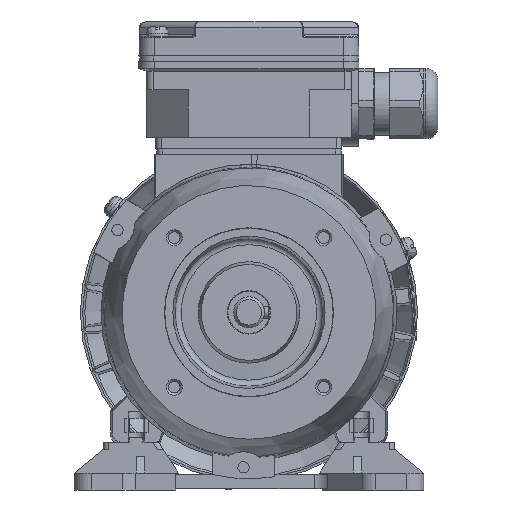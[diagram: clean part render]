
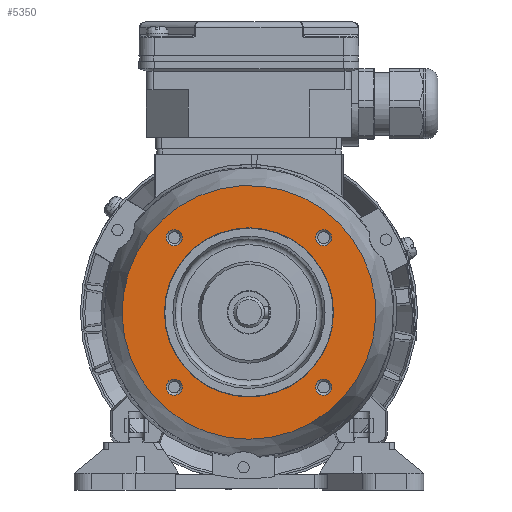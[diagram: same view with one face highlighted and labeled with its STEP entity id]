
A CAD part, left-side view. The second image highlights one B-rep face of the part: STEP entity #5350.
In plain terms, the highlighted planar face has unit normal (-1, 0, 0) as drawn and (0, -1, 0) by its records, which use the part's own axes.
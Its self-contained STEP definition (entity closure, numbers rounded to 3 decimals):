
#5350 = ADVANCED_FACE( '', ( #10820, #10821, #10822, #10823, #10824, #10825 ), #10826, .T. );
#10820 = FACE_BOUND( '', #23116, .T. );
#10821 = FACE_BOUND( '', #23117, .T. );
#10822 = FACE_BOUND( '', #23118, .T. );
#10823 = FACE_BOUND( '', #23119, .T. );
#10824 = FACE_OUTER_BOUND( '', #23120, .T. );
#10825 = FACE_BOUND( '', #23121, .T. );
#10826 = PLANE( '', #23122 );
#23116 = EDGE_LOOP( '', ( #38855 ) );
#23117 = EDGE_LOOP( '', ( #38856 ) );
#23118 = EDGE_LOOP( '', ( #38857 ) );
#23119 = EDGE_LOOP( '', ( #38858 ) );
#23120 = EDGE_LOOP( '', ( #38859 ) );
#23121 = EDGE_LOOP( '', ( #38860 ) );
#23122 = AXIS2_PLACEMENT_3D( '', #38861, #38862, #38863 );
#38855 = ORIENTED_EDGE( '', *, *, #48733, .T. );
#38856 = ORIENTED_EDGE( '', *, *, #45369, .T. );
#38857 = ORIENTED_EDGE( '', *, *, #48648, .T. );
#38858 = ORIENTED_EDGE( '', *, *, #44516, .T. );
#38859 = ORIENTED_EDGE( '', *, *, #48706, .T. );
#38860 = ORIENTED_EDGE( '', *, *, #43564, .F. );
#38861 = CARTESIAN_POINT( '', ( 0., 2.5, 30. ) );
#38862 = DIRECTION( '', ( 0., -1., 0. ) );
#38863 = DIRECTION( '', ( 0., 0., -1. ) );
#43564 = EDGE_CURVE( '', #50721, #50721, #50722, .T. );
#44516 = EDGE_CURVE( '', #52371, #52371, #52372, .F. );
#45369 = EDGE_CURVE( '', #53764, #53764, #53765, .F. );
#48648 = EDGE_CURVE( '', #58406, #58406, #58407, .F. );
#48706 = EDGE_CURVE( '', #58476, #58476, #58477, .T. );
#48733 = EDGE_CURVE( '', #58509, #58509, #58510, .F. );
#50721 = VERTEX_POINT( '', #61365 );
#50722 = CIRCLE( '', #61366, 30. );
#52371 = VERTEX_POINT( '', #64946 );
#52372 = CIRCLE( '', #64947, 2.867 );
#53764 = VERTEX_POINT( '', #67742 );
#53765 = CIRCLE( '', #67743, 2.867 );
#58406 = VERTEX_POINT( '', #77863 );
#58407 = CIRCLE( '', #77864, 2.867 );
#58476 = VERTEX_POINT( '', #78077 );
#58477 = CIRCLE( '', #78078, 45. );
#58509 = VERTEX_POINT( '', #78167 );
#58510 = CIRCLE( '', #78168, 2.867 );
#61365 = CARTESIAN_POINT( '', ( 0., 2.5, -30. ) );
#61366 = AXIS2_PLACEMENT_3D( '', #80648, #80649, #80650 );
#64946 = CARTESIAN_POINT( '', ( -26.517, 2.5, 23.65 ) );
#64947 = AXIS2_PLACEMENT_3D( '', #81861, #81862, #81863 );
#67742 = CARTESIAN_POINT( '', ( 26.517, 2.5, -29.384 ) );
#67743 = AXIS2_PLACEMENT_3D( '', #82772, #82773, #82774 );
#77863 = CARTESIAN_POINT( '', ( 26.517, 2.5, 23.65 ) );
#77864 = AXIS2_PLACEMENT_3D( '', #86303, #86304, #86305 );
#78077 = CARTESIAN_POINT( '', ( 0., 2.5, -45. ) );
#78078 = AXIS2_PLACEMENT_3D( '', #86363, #86364, #86365 );
#78167 = CARTESIAN_POINT( '', ( -26.517, 2.5, -29.384 ) );
#78168 = AXIS2_PLACEMENT_3D( '', #86376, #86377, #86378 );
#80648 = CARTESIAN_POINT( '', ( 0., 2.5, 0. ) );
#80649 = DIRECTION( '', ( 0., -1., 0. ) );
#80650 = DIRECTION( '', ( 0., 0., -1. ) );
#81861 = CARTESIAN_POINT( '', ( -26.517, 2.5, 26.517 ) );
#81862 = DIRECTION( '', ( 0., -1., 0. ) );
#81863 = DIRECTION( '', ( 0., 0., -1. ) );
#82772 = CARTESIAN_POINT( '', ( 26.517, 2.5, -26.517 ) );
#82773 = DIRECTION( '', ( 0., -1., 0. ) );
#82774 = DIRECTION( '', ( 0., 0., -1. ) );
#86303 = CARTESIAN_POINT( '', ( 26.517, 2.5, 26.517 ) );
#86304 = DIRECTION( '', ( 0., -1., 0. ) );
#86305 = DIRECTION( '', ( 0., 0., -1. ) );
#86363 = CARTESIAN_POINT( '', ( 0., 2.5, 0. ) );
#86364 = DIRECTION( '', ( 0., -1., 0. ) );
#86365 = DIRECTION( '', ( 0., 0., -1. ) );
#86376 = CARTESIAN_POINT( '', ( -26.517, 2.5, -26.517 ) );
#86377 = DIRECTION( '', ( 0., -1., 0. ) );
#86378 = DIRECTION( '', ( 0., 0., -1. ) );
